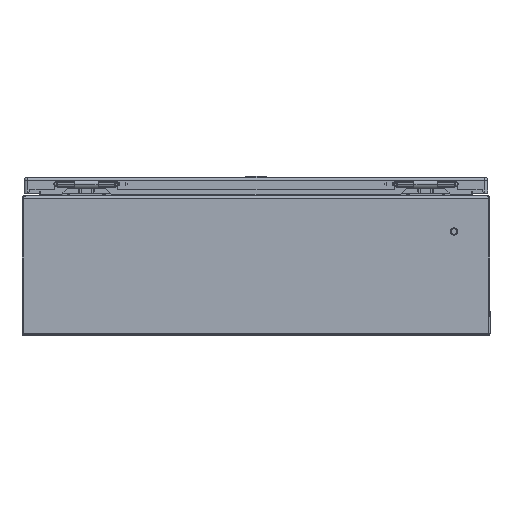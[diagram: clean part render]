
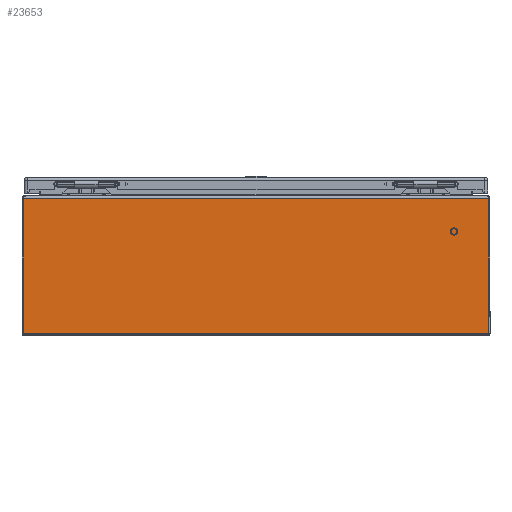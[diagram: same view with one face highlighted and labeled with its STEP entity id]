
A CAD part, left-side view. The second image highlights one B-rep face of the part: STEP entity #23653.
In plain terms, the highlighted planar face has unit normal (-1, 0, 0).
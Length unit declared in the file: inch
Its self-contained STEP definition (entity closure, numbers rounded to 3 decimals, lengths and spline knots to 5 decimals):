
#360 = ORIENTED_EDGE ( 'NONE', *, *, #27446, .T. ) ;
#361 = ORIENTED_EDGE ( 'NONE', *, *, #27404, .F. ) ;
#362 = ORIENTED_EDGE ( 'NONE', *, *, #10161, .T. ) ;
#363 = ORIENTED_EDGE ( 'NONE', *, *, #27358, .T. ) ;
#3782 = DIRECTION ( 'NONE',  ( 0., 0., -1. ) ) ;
#3783 = DIRECTION ( 'NONE',  ( -1., 0., 0. ) ) ;
#3790 = PLANE ( 'NONE',  #14653 ) ;
#3797 = CARTESIAN_POINT ( 'NONE',  ( -12., 130., 5.859 ) ) ;
#3998 = CARTESIAN_POINT ( 'NONE',  ( -12., 9.94693, 0.097 ) ) ;
#4217 = CARTESIAN_POINT ( 'NONE',  ( -12., 9.94693, 5.859 ) ) ;
#4393 = CARTESIAN_POINT ( 'NONE',  ( -12., -9.94693, 0.097 ) ) ;
#4501 = CARTESIAN_POINT ( 'NONE',  ( -12., -9.94693, 5.859 ) ) ;
#10161 = EDGE_CURVE ( 'NONE', #23375, #23570, #16313, .T. ) ;
#12142 = DIRECTION ( 'NONE',  ( 0., 0., -1. ) ) ;
#12161 = CARTESIAN_POINT ( 'NONE',  ( -12., 9.94693, 5.859 ) ) ;
#14653 = AXIS2_PLACEMENT_3D ( 'NONE', #3797, #3783, #3782 ) ;
#16313 = LINE ( 'NONE', #12161, #16315 ) ;
#16315 = VECTOR ( 'NONE', #12142, 39.37008 ) ;
#18394 = EDGE_LOOP ( 'NONE', ( #360, #361, #362, #363 ) ) ;
#18809 = FACE_OUTER_BOUND ( 'NONE', #18394, .T. ) ;
#23144 = VERTEX_POINT ( 'NONE', #4501 ) ;
#23228 = VERTEX_POINT ( 'NONE', #4393 ) ;
#23375 = VERTEX_POINT ( 'NONE', #4217 ) ;
#23570 = VERTEX_POINT ( 'NONE', #3998 ) ;
#23653 = ADVANCED_FACE ( 'NONE', ( #18809 ), #3790, .T. ) ;
#27358 = EDGE_CURVE ( 'NONE', #23570, #23228, #28026, .T. ) ;
#27404 = EDGE_CURVE ( 'NONE', #23375, #23144, #28084, .T. ) ;
#27446 = EDGE_CURVE ( 'NONE', #23228, #23144, #28161, .T. ) ;
#28026 = LINE ( 'NONE', #29392, #28030 ) ;
#28030 = VECTOR ( 'NONE', #29396, 39.37008 ) ;
#28084 = LINE ( 'NONE', #29450, #28099 ) ;
#28099 = VECTOR ( 'NONE', #29453, 39.37008 ) ;
#28161 = LINE ( 'NONE', #29506, #28163 ) ;
#28163 = VECTOR ( 'NONE', #29507, 39.37008 ) ;
#29392 = CARTESIAN_POINT ( 'NONE',  ( -12., 130., 0.097 ) ) ;
#29396 = DIRECTION ( 'NONE',  ( 0., -1., 0. ) ) ;
#29450 = CARTESIAN_POINT ( 'NONE',  ( -12., 130., 5.859 ) ) ;
#29453 = DIRECTION ( 'NONE',  ( 0., -1., 0. ) ) ;
#29506 = CARTESIAN_POINT ( 'NONE',  ( -12., -9.94693, 5.859 ) ) ;
#29507 = DIRECTION ( 'NONE',  ( 0., 0., 1. ) ) ;
